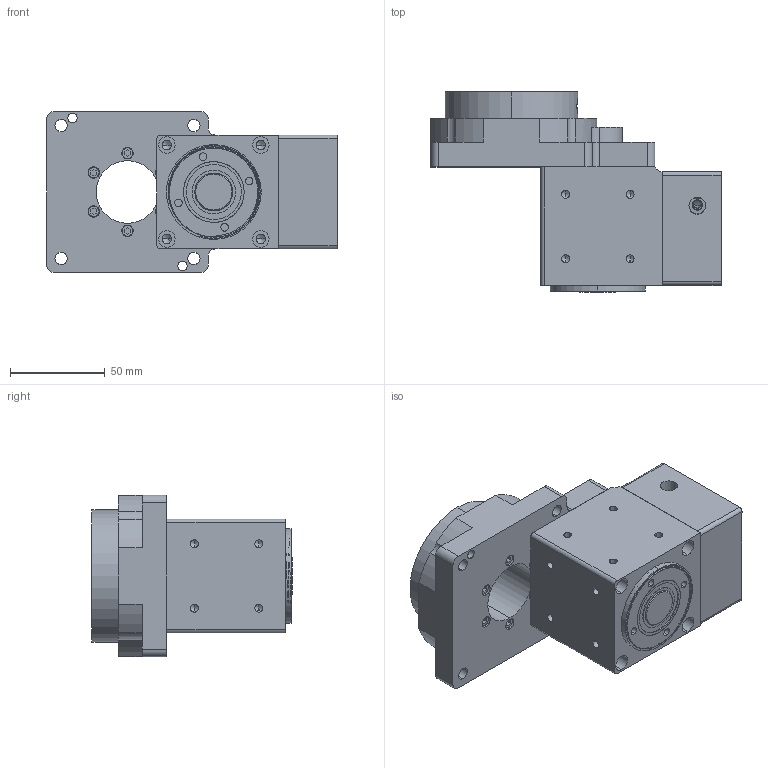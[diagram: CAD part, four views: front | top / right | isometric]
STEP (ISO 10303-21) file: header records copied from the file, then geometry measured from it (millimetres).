
FILE_DESCRIPTION (( 'STEP AP203' ), '1' );
FILE_NAME ('NTFA085-11-50-70-M4.STEP', '2024-06-25T06:50:36', ( 'Windows User' ), ( 'P R C' ), 'SwSTEP 2.0', 'SolidWorks 2016', '' );
FILE_SCHEMA (( 'CONFIG_CONTROL_DESIGN' ));
Length unit declared in the file: millimetre
Products named in the file (13): 綴楊擘1; NTFA085-5K加转向器一体(输入14-30 50-3 4-M4-70)-01; 20-32-5蚐猾; 6003_Rolling bearings 6003 GB 276-94; NTFA085-5K加转向器一体(输入14-30 50-3 4-M4-70)-02; 褲极; 眻噤14蛌眻噤11粣杶; 输入轴; NTFA085-11-50-70-M4; 蹟譫; 30204_Rolling bearings 30204 GB 297-94; 標杶; 怀堤粣
Assembly tree (15 placements, depth 3):
  NTFA085-11-50-70-M4
    NTFA085-5K加转向器一体(输入14-30 50-3 4-M4-70)-01
    NTFA085-5K加转向器一体(输入14-30 50-3 4-M4-70)-02
      6003_Rolling bearings 6003 GB 276-94
      褲极
      输入轴
      蹟譫  x2
      30204_Rolling bearings 30204 GB 297-94  x2
      標杶
      怀堤粣
      綴楊擘1
      20-32-5蚐猾  x2
    眻噤14蛌眻噤11粣杶
Bounding box: 153 x 105.5 x 85 mm (x, y, z)
Volume: 463523.9 mm3; surface area: 154863.5 mm2
Topology: 26 solids, 32 shells, 1682 faces, 5150 edges, 3227 vertices
Faces by surface type: plane 658, bspline 459, cylinder 376, cone 189
Entity records: 69214 total; most frequent: CARTESIAN_POINT 32188, ORIENTED_EDGE 8156, DIRECTION 6457, EDGE_CURVE 4078, VERTEX_POINT 2701, AXIS2_PLACEMENT_3D 2326, VECTOR 1805, LINE 1805
